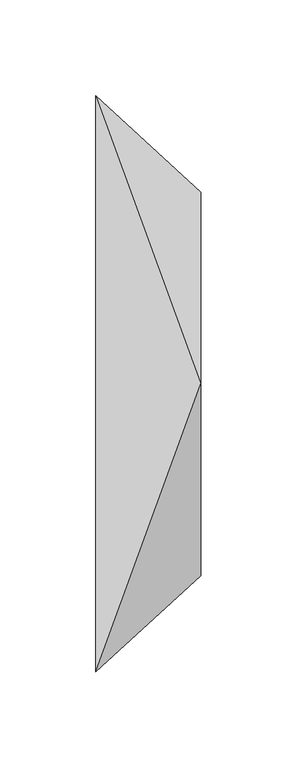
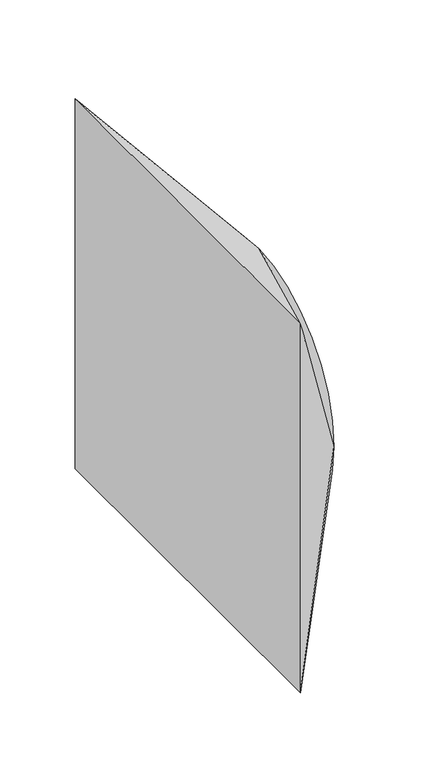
"""IFC4 building model written with IfcOpenShell, lengths in millimetres: duct fitting geometry, magicirc_multi_shape_trans_001 : magicirc_multi_shape_trans_001."""

from ifc_helpers import new_model, si_unit, frame, origin, place, context, project, spatial, circle_curve, source, transform, mapped, element, save
from ifc_brep_helpers import plane_surface, spline_surface, advanced_brep


def duct_fitting_1d8e18fc(model_context):
    return source(origin(), model_context, "Body", "AdvancedBrep", [
        advanced_brep(
        [(0.0, -150.0, -150.0), (0.0, -150.0, 150.0), (0.0, 150.0, 150.0), (0.0, 150.0, -150.0), (54.5654251, -100.0, 0.0), (54.5654251, 0.0, -100.0), (54.5654251, 100.0, 0.0), (54.5654251, 0.0, 100.0)],
        [
            (0, 1),
            (1, 2),
            (2, 3),
            (3, 0),
            (4, 5, circle_curve(frame((54.5654251, 0.0, 0.0), z_axis=(1.0, 0.0, 0.0), x_axis=(0.0, -1.0, 0.0)), 100.0)),
            (5, 6, circle_curve(frame((54.5654251, 0.0, 0.0), z_axis=(1.0, 0.0, 0.0), x_axis=(0.0, -1.0, 0.0)), 100.0)),
            (6, 7, circle_curve(frame((54.5654251, 0.0, 0.0), z_axis=(1.0, 0.0, 0.0), x_axis=(0.0, -1.0, 0.0)), 100.0)),
            (7, 4, circle_curve(frame((54.5654251, 0.0, 0.0), z_axis=(1.0, 0.0, 0.0), x_axis=(0.0, -1.0, 0.0)), 100.0)),
            (0, 4),
            (4, 1),
            (7, 1),
            (7, 2),
            (6, 2),
            (6, 3),
            (5, 3),
            (5, 0),
        ],
        [
            plane_surface(frame((0.0, 0.0, 0.0), z_axis=(-1.0, 0.0, 0.0), x_axis=(0.0, 1.0, 0.0))),
            plane_surface(frame((54.5654251, 0.0, 0.0), z_axis=(1.0, 0.0, 0.0), x_axis=(0.0, 1.0, 0.0))),
            plane_surface(frame((54.5654251, -100.0, 0.0), z_axis=(0.6755902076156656, -0.7372773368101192, 0.0), x_axis=(0.0, 0.0, 1.0))),
            spline_surface(2, 1, [[(54.5654251, -100.0, 0.0), (0.0, -150.0, 150.0)], [(54.5654251, -100.0, 100.0), (0.0, -150.0, 150.0)], [(54.5654251, 0.0, 100.0), (0.0, -150.0, 150.0)]], [3, 3], [2, 2], [0.0, 1.0], [0.0, 1.0], weights=[[1.0, 1.0], [0.7071067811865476, 0.7071067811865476], [1.0, 1.0]]),
            plane_surface(frame((54.5654251, 0.0, 100.0), z_axis=(0.6755902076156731, 0.0, 0.7372773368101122), x_axis=(0.0, 1.0, 0.0))),
            spline_surface(2, 1, [[(54.5654251, 0.0, 100.0), (0.0, 150.0, 150.0)], [(54.5654251, 100.0, 100.0), (0.0, 150.0, 150.0)], [(54.5654251, 100.0, 0.0), (0.0, 150.0, 150.0)]], [3, 3], [2, 2], [0.0, 1.0], [0.0, 1.0], weights=[[1.0, 1.0], [0.7071067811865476, 0.7071067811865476], [1.0, 1.0]]),
            plane_surface(frame((54.5654251, 100.0, 0.0), z_axis=(0.6755902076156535, 0.7372773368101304, 0.0), x_axis=(0.0, 0.0, -1.0))),
            spline_surface(2, 1, [[(54.5654251, 100.0, 0.0), (0.0, 150.0, -150.0)], [(54.5654251, 100.0, -100.0), (0.0, 150.0, -150.0)], [(54.5654251, 0.0, -100.0), (0.0, 150.0, -150.0)]], [3, 3], [2, 2], [0.0, 1.0], [0.0, 1.0], weights=[[1.0, 1.0], [0.7071067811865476, 0.7071067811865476], [1.0, 1.0]]),
            plane_surface(frame((54.5654251, 0.0, -100.0), z_axis=(0.6755902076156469, 0.0, -0.7372773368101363), x_axis=(0.0, -1.0, 0.0))),
            spline_surface(2, 1, [[(54.5654251, 0.0, -100.0), (0.0, -150.0, -150.0)], [(54.5654251, -100.0, -100.0), (0.0, -150.0, -150.0)], [(54.5654251, -100.0, 0.0), (0.0, -150.0, -150.0)]], [3, 3], [2, 2], [0.0, 1.0], [0.0, 1.0], weights=[[1.0, 1.0], [0.7071067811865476, 0.7071067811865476], [1.0, 1.0]]),
        ],
        [
            (0, [[1, 2, 3, 4]]),
            (1, [[5, 6, 7, 8]]),
            (2, [[-1, 9, 10]]),
            (3, [[-8, 11, -10]]),
            (4, [[-2, -11, 12]]),
            (5, [[-7, 13, -12]]),
            (6, [[-3, -13, 14]]),
            (7, [[-6, 15, -14]]),
            (8, [[-4, -15, 16]]),
            (9, [[-5, -9, -16]]),
        ],
    ),
        advanced_brep(
        [(0.0, -150.0, -150.0), (0.0, -150.0, 150.0), (0.0, 150.0, 150.0), (0.0, 150.0, -150.0), (54.5654251, -100.0, 0.0), (54.5654251, 0.0, -100.0), (54.5654251, 100.0, 0.0), (54.5654251, 0.0, 100.0)],
        [
            (0, 1),
            (1, 2),
            (2, 3),
            (3, 0),
            (4, 5, circle_curve(frame((54.5654251, 0.0, 0.0), z_axis=(1.0, 0.0, 0.0), x_axis=(0.0, -1.0, 0.0)), 100.0)),
            (5, 6, circle_curve(frame((54.5654251, 0.0, 0.0), z_axis=(1.0, 0.0, 0.0), x_axis=(0.0, -1.0, 0.0)), 100.0)),
            (6, 7, circle_curve(frame((54.5654251, 0.0, 0.0), z_axis=(1.0, 0.0, 0.0), x_axis=(0.0, -1.0, 0.0)), 100.0)),
            (7, 4, circle_curve(frame((54.5654251, 0.0, 0.0), z_axis=(1.0, 0.0, 0.0), x_axis=(0.0, -1.0, 0.0)), 100.0)),
            (0, 4),
            (4, 1),
            (7, 1),
            (7, 2),
            (6, 2),
            (6, 3),
            (5, 3),
            (5, 0),
        ],
        [
            plane_surface(frame((0.0, 0.0, 0.0), z_axis=(-1.0, 0.0, 0.0), x_axis=(0.0, 1.0, 0.0))),
            plane_surface(frame((54.5654251, 0.0, 0.0), z_axis=(1.0, 0.0, 0.0), x_axis=(0.0, 1.0, 0.0))),
            plane_surface(frame((54.5654251, -100.0, 0.0), z_axis=(0.6755902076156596, -0.7372773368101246, 0.0), x_axis=(0.0, 0.0, 1.0))),
            spline_surface(2, 1, [[(54.5654251, -100.0, 0.0), (0.0, -150.0, 150.0)], [(54.5654251, -100.0, 100.0), (0.0, -150.0, 150.0)], [(54.5654251, 0.0, 100.0), (0.0, -150.0, 150.0)]], [3, 3], [2, 2], [0.0, 1.0], [0.0, 1.0], weights=[[1.0, 1.0], [0.7071067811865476, 0.7071067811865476], [1.0, 1.0]]),
            plane_surface(frame((54.5654251, 0.0, 100.0), z_axis=(0.6755902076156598, 0.0, 0.7372773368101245), x_axis=(0.0, 1.0, 0.0))),
            spline_surface(2, 1, [[(54.5654251, 0.0, 100.0), (0.0, 150.0, 150.0)], [(54.5654251, 100.0, 100.0), (0.0, 150.0, 150.0)], [(54.5654251, 100.0, 0.0), (0.0, 150.0, 150.0)]], [3, 3], [2, 2], [0.0, 1.0], [0.0, 1.0], weights=[[1.0, 1.0], [0.7071067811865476, 0.7071067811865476], [1.0, 1.0]]),
            plane_surface(frame((54.5654251, 100.0, 0.0), z_axis=(0.6755902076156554, 0.7372773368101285, 0.0), x_axis=(0.0, 0.0, -1.0))),
            spline_surface(2, 1, [[(54.5654251, 100.0, 0.0), (0.0, 150.0, -150.0)], [(54.5654251, 100.0, -100.0), (0.0, 150.0, -150.0)], [(54.5654251, 0.0, -100.0), (0.0, 150.0, -150.0)]], [3, 3], [2, 2], [0.0, 1.0], [0.0, 1.0], weights=[[1.0, 1.0], [0.7071067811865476, 0.7071067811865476], [1.0, 1.0]]),
            plane_surface(frame((54.5654251, 0.0, -100.0), z_axis=(0.6755902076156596, 0.0, -0.7372773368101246), x_axis=(0.0, -1.0, 0.0))),
            spline_surface(2, 1, [[(54.5654251, 0.0, -100.0), (0.0, -150.0, -150.0)], [(54.5654251, -100.0, -100.0), (0.0, -150.0, -150.0)], [(54.5654251, -100.0, 0.0), (0.0, -150.0, -150.0)]], [3, 3], [2, 2], [0.0, 1.0], [0.0, 1.0], weights=[[1.0, 1.0], [0.7071067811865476, 0.7071067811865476], [1.0, 1.0]]),
        ],
        [
            (0, [[1, 2, 3, 4]]),
            (1, [[5, 6, 7, 8]]),
            (2, [[-1, 9, 10]]),
            (3, [[-8, 11, -10]]),
            (4, [[-2, -11, 12]]),
            (5, [[-7, 13, -12]]),
            (6, [[-3, -13, 14]]),
            (7, [[-6, 15, -14]]),
            (8, [[-4, -15, 16]]),
            (9, [[-5, -9, -16]]),
        ],
    ),
        advanced_brep(
        [(54.5654251, 0.0, 100.0), (54.5654251, -100.0, 0.0), (54.5654251, 0.0, -100.0), (54.5654251, 100.0, 0.0), (0.0, -150.0, 150.0), (0.0, 150.0, 150.0), (0.0, 150.0, -150.0), (0.0, -150.0, -150.0)],
        [
            (0, 1, circle_curve(frame((54.5654251, 0.0, 0.0), z_axis=(1.0, 0.0, 0.0), x_axis=(0.0, 1.0, 0.0)), 100.0)),
            (1, 2, circle_curve(frame((54.5654251, 0.0, 0.0), z_axis=(1.0, 0.0, 0.0), x_axis=(0.0, 1.0, 0.0)), 100.0)),
            (2, 3, circle_curve(frame((54.5654251, 0.0, 0.0), z_axis=(1.0, 0.0, 0.0), x_axis=(0.0, 1.0, 0.0)), 100.0)),
            (3, 0, circle_curve(frame((54.5654251, 0.0, 0.0), z_axis=(1.0, 0.0, 0.0), x_axis=(0.0, 1.0, 0.0)), 100.0)),
            (4, 5),
            (5, 6),
            (6, 7),
            (7, 4),
            (0, 4),
            (4, 1),
            (7, 1),
            (7, 2),
            (6, 2),
            (6, 3),
            (5, 3),
            (5, 0),
        ],
        [
            plane_surface(frame((54.5654251, 0.0, 0.0), z_axis=(1.0, 0.0, 0.0), x_axis=(0.0, 0.0, -1.0))),
            plane_surface(frame((0.0, 0.0, 0.0), z_axis=(-1.0, 0.0, 0.0), x_axis=(0.0, 0.0, -1.0))),
            spline_surface(2, 1, [[(0.0, -150.0, 150.0), (54.5654251, 0.0, 100.0)], [(0.0, -150.0, 150.0), (54.5654251, -100.0, 100.0)], [(0.0, -150.0, 150.0), (54.5654251, -100.0, 0.0)]], [3, 3], [2, 2], [0.0, 1.0], [0.0, 1.0], weights=[[1.0, 1.0], [0.7071067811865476, 0.7071067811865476], [1.0, 1.0]]),
            plane_surface(frame((0.0, -150.0, 0.0), z_axis=(0.6755902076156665, -0.7372773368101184, 0.0), x_axis=(0.0, 0.0, -1.0))),
            spline_surface(2, 1, [[(0.0, -150.0, -150.0), (54.5654251, -100.0, 0.0)], [(0.0, -150.0, -150.0), (54.5654251, -100.0, -100.0)], [(0.0, -150.0, -150.0), (54.5654251, 0.0, -100.0)]], [3, 3], [2, 2], [0.0, 1.0], [0.0, 1.0], weights=[[1.0, 1.0], [0.7071067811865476, 0.7071067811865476], [1.0, 1.0]]),
            plane_surface(frame((0.0, 0.0, -150.0), z_axis=(0.6755902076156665, 0.0, -0.7372773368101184), x_axis=(0.0, 1.0, 0.0))),
            spline_surface(2, 1, [[(0.0, 150.0, -150.0), (54.5654251, 0.0, -100.0)], [(0.0, 150.0, -150.0), (54.5654251, 100.0, -100.0)], [(0.0, 150.0, -150.0), (54.5654251, 100.0, 0.0)]], [3, 3], [2, 2], [0.0, 1.0], [0.0, 1.0], weights=[[1.0, 1.0], [0.7071067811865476, 0.7071067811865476], [1.0, 1.0]]),
            plane_surface(frame((0.0, 150.0, 0.0), z_axis=(0.6755902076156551, 0.7372773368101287, 0.0), x_axis=(0.0, 0.0, 1.0))),
            spline_surface(2, 1, [[(0.0, 150.0, 150.0), (54.5654251, 100.0, 0.0)], [(0.0, 150.0, 150.0), (54.5654251, 100.0, 100.0)], [(0.0, 150.0, 150.0), (54.5654251, 0.0, 100.0)]], [3, 3], [2, 2], [0.0, 1.0], [0.0, 1.0], weights=[[1.0, 1.0], [0.7071067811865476, 0.7071067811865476], [1.0, 1.0]]),
            plane_surface(frame((0.0, 0.0, 150.0), z_axis=(0.6755902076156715, 0.0, 0.7372773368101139), x_axis=(0.0, -1.0, 0.0))),
        ],
        [
            (0, [[1, 2, 3, 4]]),
            (1, [[5, 6, 7, 8]]),
            (2, [[-1, 9, 10]]),
            (3, [[-8, 11, -10]]),
            (4, [[-2, -11, 12]]),
            (5, [[-7, 13, -12]]),
            (6, [[-3, -13, 14]]),
            (7, [[-6, 15, -14]]),
            (8, [[-4, -15, 16]]),
            (9, [[-5, -9, -16]]),
        ],
    ),
    ])


if __name__ == "__main__":
    model = new_model("IFC4")
    model_context = context("Model", 3, world=origin())
    ifc_project = project(units=[si_unit("LENGTHUNIT", "METRE", prefix="MILLI")], contexts=[model_context])
    site = spatial("IfcSite", under=ifc_project)
    building = spatial("IfcBuilding", under=site)
    placement = place(None, origin())
    duct_fitting_shape = duct_fitting_1d8e18fc(model_context)
    element("IfcDuctFitting", 1, ObjectType="magicirc_multi_shape_trans_001 : magicirc_multi_shape_trans_001", at=placement, inside=building, context=model_context, shape_type="MappedRepresentation", body=[
        mapped(duct_fitting_shape, transform((0.0, 0.0, 0.0), x_axis=(1.0, 0.0, 0.0), y_axis=(0.0, 1.0, 0.0), z_axis=(0.0, 0.0, 1.0))),
    ])
    save(model, "model.ifc")
